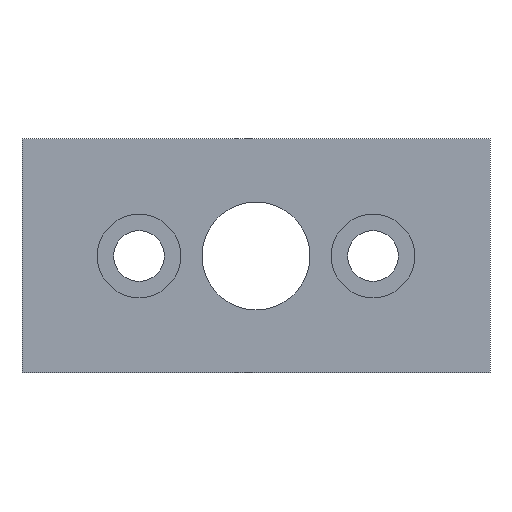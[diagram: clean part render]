
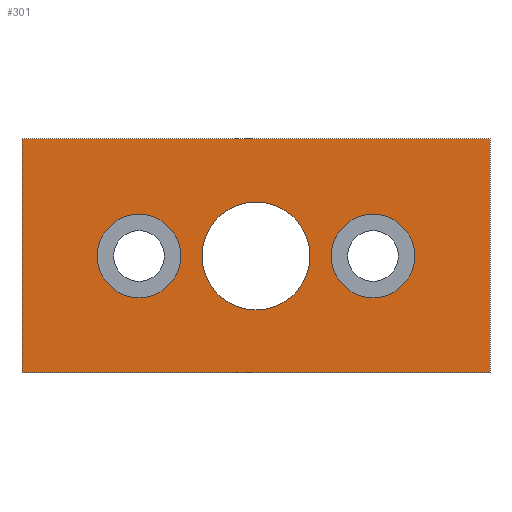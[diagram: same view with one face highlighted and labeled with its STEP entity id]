
A CAD part, front view. The second image highlights one B-rep face of the part: STEP entity #301.
In plain terms, the highlighted planar face has unit normal (0, -1, 0).
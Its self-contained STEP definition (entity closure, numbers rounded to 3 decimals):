
#28=CIRCLE('',#323,6.918);
#29=CIRCLE('',#324,5.35);
#30=CIRCLE('',#325,5.35);
#58=ORIENTED_EDGE('',*,*,#94,.T.);
#59=ORIENTED_EDGE('',*,*,#95,.T.);
#60=ORIENTED_EDGE('',*,*,#96,.T.);
#61=ORIENTED_EDGE('',*,*,#79,.T.);
#62=ORIENTED_EDGE('',*,*,#83,.T.);
#63=ORIENTED_EDGE('',*,*,#86,.T.);
#64=ORIENTED_EDGE('',*,*,#89,.T.);
#79=EDGE_CURVE('',#101,#102,#119,.T.);
#83=EDGE_CURVE('',#102,#105,#123,.T.);
#86=EDGE_CURVE('',#105,#107,#126,.T.);
#89=EDGE_CURVE('',#107,#101,#129,.T.);
#94=EDGE_CURVE('',#112,#112,#28,.T.);
#95=EDGE_CURVE('',#113,#113,#29,.T.);
#96=EDGE_CURVE('',#114,#114,#30,.T.);
#101=VERTEX_POINT('',#400);
#102=VERTEX_POINT('',#401);
#105=VERTEX_POINT('',#409);
#107=VERTEX_POINT('',#415);
#112=VERTEX_POINT('',#431);
#113=VERTEX_POINT('',#433);
#114=VERTEX_POINT('',#435);
#119=LINE('',#399,#131);
#123=LINE('',#408,#135);
#126=LINE('',#414,#138);
#129=LINE('',#420,#141);
#131=VECTOR('',#341,1000.);
#135=VECTOR('',#347,1000.);
#138=VECTOR('',#352,1000.);
#141=VECTOR('',#357,1000.);
#151=EDGE_LOOP('',(#58));
#152=EDGE_LOOP('',(#59));
#153=EDGE_LOOP('',(#60));
#154=EDGE_LOOP('',(#61,#62,#63,#64));
#177=FACE_BOUND('',#151,.T.);
#178=FACE_BOUND('',#152,.T.);
#179=FACE_BOUND('',#153,.T.);
#180=FACE_BOUND('',#154,.T.);
#200=PLANE('',#322);
#301=ADVANCED_FACE('',(#177,#178,#179,#180),#200,.T.);
#322=AXIS2_PLACEMENT_3D('',#429,#367,#368);
#323=AXIS2_PLACEMENT_3D('',#430,#369,#370);
#324=AXIS2_PLACEMENT_3D('',#432,#371,#372);
#325=AXIS2_PLACEMENT_3D('',#434,#373,#374);
#341=DIRECTION('',(0.,0.,1.));
#347=DIRECTION('',(-1.,0.,0.));
#352=DIRECTION('',(0.,0.,-1.));
#357=DIRECTION('',(1.,0.,0.));
#367=DIRECTION('',(0.,-1.,0.));
#368=DIRECTION('',(0.,0.,-1.));
#369=DIRECTION('',(0.,1.,0.));
#370=DIRECTION('',(0.,0.,-1.));
#371=DIRECTION('',(0.,1.,0.));
#372=DIRECTION('',(0.,0.,-1.));
#373=DIRECTION('',(0.,1.,0.));
#374=DIRECTION('',(0.,0.,-1.));
#399=CARTESIAN_POINT('',(30.,0.,-15.));
#400=CARTESIAN_POINT('',(30.,0.,-15.));
#401=CARTESIAN_POINT('',(30.,0.,15.));
#408=CARTESIAN_POINT('',(30.,0.,15.));
#409=CARTESIAN_POINT('',(-30.,0.,15.));
#414=CARTESIAN_POINT('',(-30.,0.,15.));
#415=CARTESIAN_POINT('',(-30.,0.,-15.));
#420=CARTESIAN_POINT('',(-30.,0.,-15.));
#429=CARTESIAN_POINT('',(0.,0.,0.));
#430=CARTESIAN_POINT('',(0.,0.,0.));
#431=CARTESIAN_POINT('',(0.,0.,-6.918));
#432=CARTESIAN_POINT('',(15.,0.,0.));
#433=CARTESIAN_POINT('',(15.,0.,-5.35));
#434=CARTESIAN_POINT('',(-15.,0.,0.));
#435=CARTESIAN_POINT('',(-15.,0.,-5.35));
